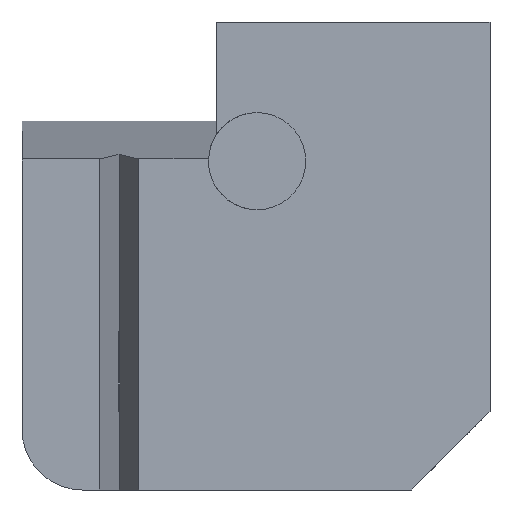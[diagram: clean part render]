
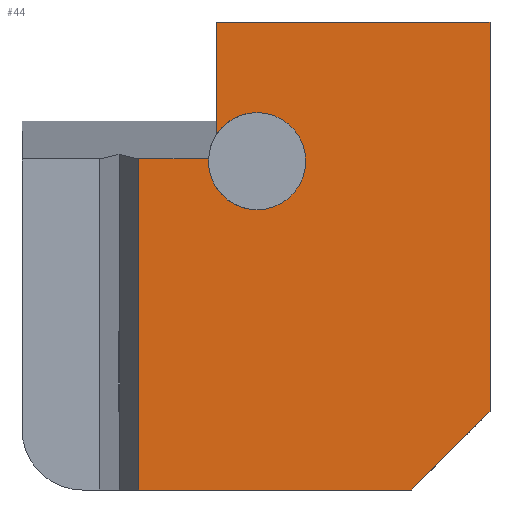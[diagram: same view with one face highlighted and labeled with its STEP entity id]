
A CAD part, front view. The second image highlights one B-rep face of the part: STEP entity #44.
In plain terms, the highlighted planar face has unit normal (0, -1, 0).
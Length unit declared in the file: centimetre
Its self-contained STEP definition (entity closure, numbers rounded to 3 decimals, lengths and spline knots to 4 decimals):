
#3 = DIRECTION ( 'NONE',  ( 0., 0., -1. ) ) ;
#8 = VERTEX_POINT ( 'NONE', #162 ) ;
#26 = EDGE_CURVE ( 'NONE', #300, #209, #399, .T. ) ;
#44 = ADVANCED_FACE ( 'NONE', ( #995 ), #987, .F. ) ;
#51 = LINE ( 'NONE', #289, #230 ) ;
#66 = EDGE_CURVE ( 'NONE', #605, #271, #391, .T. ) ;
#68 = CARTESIAN_POINT ( 'NONE',  ( 249.0095, 0., 0. ) ) ;
#72 = ORIENTED_EDGE ( 'NONE', *, *, #964, .F. ) ;
#90 = ORIENTED_EDGE ( 'NONE', *, *, #1001, .T. ) ;
#91 = CARTESIAN_POINT ( 'NONE',  ( 416.5969, 0., 761.4676 ) ) ;
#96 = CARTESIAN_POINT ( 'NONE',  ( 1000., 0., 168.6595 ) ) ;
#97 = ORIENTED_EDGE ( 'NONE', *, *, #1028, .T. ) ;
#104 = CARTESIAN_POINT ( 'NONE',  ( 502.2266, 0., 598.684 ) ) ;
#162 = CARTESIAN_POINT ( 'NONE',  ( 416.5969, 0., 1000. ) ) ;
#199 = CARTESIAN_POINT ( 'NONE',  ( 502.2266, 0., 702.5979 ) ) ;
#208 = EDGE_CURVE ( 'NONE', #271, #1055, #248, .T. ) ;
#209 = VERTEX_POINT ( 'NONE', #843 ) ;
#222 = DIRECTION ( 'NONE',  ( 1., 0., 0. ) ) ;
#230 = VECTOR ( 'NONE', #222, 100. ) ;
#235 = ORIENTED_EDGE ( 'NONE', *, *, #208, .F. ) ;
#236 = DIRECTION ( 'NONE',  ( 0., 0., 1. ) ) ;
#240 = VERTEX_POINT ( 'NONE', #737 ) ;
#243 = CARTESIAN_POINT ( 'NONE',  ( 502.2266, 0., 702.5979 ) ) ;
#246 = CARTESIAN_POINT ( 'NONE',  ( 1000., 0., 168.6595 ) ) ;
#248 = CIRCLE ( 'NONE', #851, 103.9139 ) ;
#258 = DIRECTION ( 'NONE',  ( 0., 1., 0. ) ) ;
#259 = LINE ( 'NONE', #673, #460 ) ;
#271 = VERTEX_POINT ( 'NONE', #678 ) ;
#275 = VECTOR ( 'NONE', #907, 100. ) ;
#279 = DIRECTION ( 'NONE',  ( 0., -1., 0. ) ) ;
#285 = AXIS2_PLACEMENT_3D ( 'NONE', #199, #279, #675 ) ;
#289 = CARTESIAN_POINT ( 'NONE',  ( 0., 0., 0. ) ) ;
#300 = VERTEX_POINT ( 'NONE', #567 ) ;
#313 = DIRECTION ( 'NONE',  ( 0., -1., 0. ) ) ;
#374 = ORIENTED_EDGE ( 'NONE', *, *, #813, .F. ) ;
#391 = CIRCLE ( 'NONE', #961, 103.9139 ) ;
#399 = LINE ( 'NONE', #68, #692 ) ;
#414 = DIRECTION ( 'NONE',  ( 0., 0., -1. ) ) ;
#416 = LINE ( 'NONE', #96, #275 ) ;
#446 = EDGE_CURVE ( 'NONE', #1038, #736, #259, .T. ) ;
#448 = LINE ( 'NONE', #539, #600 ) ;
#460 = VECTOR ( 'NONE', #414, 100. ) ;
#477 = ORIENTED_EDGE ( 'NONE', *, *, #446, .F. ) ;
#529 = EDGE_CURVE ( 'NONE', #1041, #605, #685, .T. ) ;
#533 = AXIS2_PLACEMENT_3D ( 'NONE', #1057, #258, #723 ) ;
#539 = CARTESIAN_POINT ( 'NONE',  ( 416.5969, 0., 707.2701 ) ) ;
#552 = VECTOR ( 'NONE', #1027, 100. ) ;
#559 = ORIENTED_EDGE ( 'NONE', *, *, #66, .F. ) ;
#567 = CARTESIAN_POINT ( 'NONE',  ( 249.0095, 0., 0. ) ) ;
#589 = DIRECTION ( 'NONE',  ( 0., 0., -1. ) ) ;
#600 = VECTOR ( 'NONE', #778, 100. ) ;
#605 = VERTEX_POINT ( 'NONE', #104 ) ;
#673 = CARTESIAN_POINT ( 'NONE',  ( 1000., 0., 1000. ) ) ;
#675 = DIRECTION ( 'NONE',  ( 0., 0., -1. ) ) ;
#678 = CARTESIAN_POINT ( 'NONE',  ( 502.2266, 0., 806.5118 ) ) ;
#682 = DIRECTION ( 'NONE',  ( 0., 0., 1. ) ) ;
#685 = CIRCLE ( 'NONE', #285, 103.9139 ) ;
#688 = CARTESIAN_POINT ( 'NONE',  ( 502.2266, 0., 702.5979 ) ) ;
#692 = VECTOR ( 'NONE', #236, 100. ) ;
#699 = CARTESIAN_POINT ( 'NONE',  ( 1000., 0., 1000. ) ) ;
#704 = EDGE_LOOP ( 'NONE', ( #374, #235, #559, #845, #97, #1048, #90, #721, #477, #72 ) ) ;
#721 = ORIENTED_EDGE ( 'NONE', *, *, #848, .T. ) ;
#723 = DIRECTION ( 'NONE',  ( 0., 0., 1. ) ) ;
#735 = LINE ( 'NONE', #915, #862 ) ;
#736 = VERTEX_POINT ( 'NONE', #246 ) ;
#737 = CARTESIAN_POINT ( 'NONE',  ( 831.3405, 0., 0. ) ) ;
#772 = CARTESIAN_POINT ( 'NONE',  ( 0., 0., 1000. ) ) ;
#778 = DIRECTION ( 'NONE',  ( -1., 0., 0. ) ) ;
#813 = EDGE_CURVE ( 'NONE', #1055, #8, #735, .T. ) ;
#843 = CARTESIAN_POINT ( 'NONE',  ( 249.0095, 0., 707.2701 ) ) ;
#845 = ORIENTED_EDGE ( 'NONE', *, *, #529, .F. ) ;
#848 = EDGE_CURVE ( 'NONE', #240, #736, #416, .T. ) ;
#851 = AXIS2_PLACEMENT_3D ( 'NONE', #688, #925, #589 ) ;
#862 = VECTOR ( 'NONE', #682, 100. ) ;
#864 = CARTESIAN_POINT ( 'NONE',  ( 398.4178, 0., 707.2701 ) ) ;
#866 = LINE ( 'NONE', #772, #552 ) ;
#907 = DIRECTION ( 'NONE',  ( 0.707, 0., 0.707 ) ) ;
#915 = CARTESIAN_POINT ( 'NONE',  ( 416.5969, 0., 707.2701 ) ) ;
#925 = DIRECTION ( 'NONE',  ( 0., -1., 0. ) ) ;
#961 = AXIS2_PLACEMENT_3D ( 'NONE', #243, #313, #3 ) ;
#964 = EDGE_CURVE ( 'NONE', #8, #1038, #866, .T. ) ;
#987 = PLANE ( 'NONE',  #533 ) ;
#995 = FACE_OUTER_BOUND ( 'NONE', #704, .T. ) ;
#1001 = EDGE_CURVE ( 'NONE', #300, #240, #51, .T. ) ;
#1027 = DIRECTION ( 'NONE',  ( 1., 0., 0. ) ) ;
#1028 = EDGE_CURVE ( 'NONE', #1041, #209, #448, .T. ) ;
#1038 = VERTEX_POINT ( 'NONE', #699 ) ;
#1041 = VERTEX_POINT ( 'NONE', #864 ) ;
#1048 = ORIENTED_EDGE ( 'NONE', *, *, #26, .F. ) ;
#1055 = VERTEX_POINT ( 'NONE', #91 ) ;
#1057 = CARTESIAN_POINT ( 'NONE',  ( 0., 0., 1000. ) ) ;
